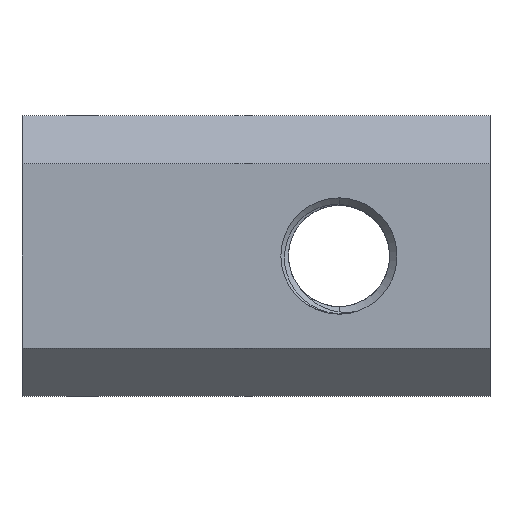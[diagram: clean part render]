
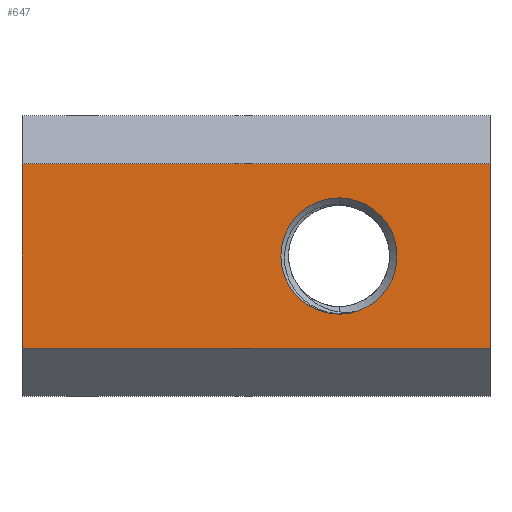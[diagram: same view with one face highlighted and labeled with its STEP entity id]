
A CAD part, front view. The second image highlights one B-rep face of the part: STEP entity #647.
In plain terms, the highlighted planar face has unit normal (0, -1, 0).
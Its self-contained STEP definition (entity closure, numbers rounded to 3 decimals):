
#28 = VERTEX_POINT ( 'NONE', #3129 ) ;
#56 = EDGE_LOOP ( 'NONE', ( #4182, #2346, #581 ) ) ;
#110 = CARTESIAN_POINT ( 'NONE',  ( 31., 0., -6.1 ) ) ;
#259 = ORIENTED_EDGE ( 'NONE', *, *, #1828, .F. ) ;
#275 = LINE ( 'NONE', #3035, #2840 ) ;
#318 = CARTESIAN_POINT ( 'NONE',  ( 31., 0., 4.9 ) ) ;
#393 = VECTOR ( 'NONE', #3315, 1000. ) ;
#436 = CARTESIAN_POINT ( 'NONE',  ( 0., 0., 4.9 ) ) ;
#581 = ORIENTED_EDGE ( 'NONE', *, *, #2316, .T. ) ;
#647 = ADVANCED_FACE ( 'NONE', ( #2257, #2011 ), #1257, .F. ) ;
#712 = DIRECTION ( 'NONE',  ( -1., 0., 0. ) ) ;
#835 = ORIENTED_EDGE ( 'NONE', *, *, #4388, .F. ) ;
#1008 = AXIS2_PLACEMENT_3D ( 'NONE', #3575, #1182, #712 ) ;
#1030 = VERTEX_POINT ( 'NONE', #110 ) ;
#1124 = CIRCLE ( 'NONE', #2845, 3.85 ) ;
#1182 = DIRECTION ( 'NONE',  ( 0., 1., 0. ) ) ;
#1253 = CARTESIAN_POINT ( 'NONE',  ( 21., 0., 3.85 ) ) ;
#1257 = PLANE ( 'NONE',  #1483 ) ;
#1404 = AXIS2_PLACEMENT_3D ( 'NONE', #4635, #4154, #3695 ) ;
#1483 = AXIS2_PLACEMENT_3D ( 'NONE', #318, #4470, #3994 ) ;
#1508 = VERTEX_POINT ( 'NONE', #3187 ) ;
#1619 = VERTEX_POINT ( 'NONE', #1253 ) ;
#1710 = CIRCLE ( 'NONE', #1008, 3.85 ) ;
#1730 = DIRECTION ( 'NONE',  ( -1., 0., 0. ) ) ;
#1828 = EDGE_CURVE ( 'NONE', #4561, #3625, #4234, .T. ) ;
#1865 = CIRCLE ( 'NONE', #1404, 3.85 ) ;
#2011 = FACE_OUTER_BOUND ( 'NONE', #2831, .T. ) ;
#2147 = EDGE_CURVE ( 'NONE', #4103, #28, #1865, .T. ) ;
#2161 = DIRECTION ( 'NONE',  ( 0., 0., -1. ) ) ;
#2197 = DIRECTION ( 'NONE',  ( 0., 1., 0. ) ) ;
#2257 = FACE_BOUND ( 'NONE', #56, .T. ) ;
#2316 = EDGE_CURVE ( 'NONE', #1619, #4103, #1710, .T. ) ;
#2321 = LINE ( 'NONE', #436, #3799 ) ;
#2339 = VECTOR ( 'NONE', #2161, 1000. ) ;
#2346 = ORIENTED_EDGE ( 'NONE', *, *, #3112, .T. ) ;
#2538 = DIRECTION ( 'NONE',  ( 1., 0., 0. ) ) ;
#2657 = CARTESIAN_POINT ( 'NONE',  ( 31., 0., 4.9 ) ) ;
#2695 = CARTESIAN_POINT ( 'NONE',  ( 21., 0., 0. ) ) ;
#2831 = EDGE_LOOP ( 'NONE', ( #4012, #835, #259, #3143 ) ) ;
#2840 = VECTOR ( 'NONE', #2538, 1000. ) ;
#2845 = AXIS2_PLACEMENT_3D ( 'NONE', #2695, #2197, #1730 ) ;
#3035 = CARTESIAN_POINT ( 'NONE',  ( -0.001, 0., -6.1 ) ) ;
#3112 = EDGE_CURVE ( 'NONE', #28, #1619, #1124, .T. ) ;
#3129 = CARTESIAN_POINT ( 'NONE',  ( 21., 0., -3.85 ) ) ;
#3143 = ORIENTED_EDGE ( 'NONE', *, *, #3568, .T. ) ;
#3153 = LINE ( 'NONE', #2657, #2339 ) ;
#3187 = CARTESIAN_POINT ( 'NONE',  ( 0., 0., -6.1 ) ) ;
#3315 = DIRECTION ( 'NONE',  ( 1., 0., 0. ) ) ;
#3568 = EDGE_CURVE ( 'NONE', #4561, #1508, #2321, .T. ) ;
#3575 = CARTESIAN_POINT ( 'NONE',  ( 21., 0., 0. ) ) ;
#3625 = VERTEX_POINT ( 'NONE', #3777 ) ;
#3695 = DIRECTION ( 'NONE',  ( -1., 0., 0. ) ) ;
#3767 = CARTESIAN_POINT ( 'NONE',  ( -0.001, 0., 6.1 ) ) ;
#3777 = CARTESIAN_POINT ( 'NONE',  ( 31., 0., 6.1 ) ) ;
#3799 = VECTOR ( 'NONE', #4589, 1000. ) ;
#3994 = DIRECTION ( 'NONE',  ( -1., 0., 0. ) ) ;
#3996 = CARTESIAN_POINT ( 'NONE',  ( 22.197, 0., -3.659 ) ) ;
#4012 = ORIENTED_EDGE ( 'NONE', *, *, #4425, .T. ) ;
#4103 = VERTEX_POINT ( 'NONE', #3996 ) ;
#4154 = DIRECTION ( 'NONE',  ( 0., 1., 0. ) ) ;
#4182 = ORIENTED_EDGE ( 'NONE', *, *, #2147, .T. ) ;
#4234 = LINE ( 'NONE', #3767, #393 ) ;
#4367 = CARTESIAN_POINT ( 'NONE',  ( 0., 0., 6.1 ) ) ;
#4388 = EDGE_CURVE ( 'NONE', #3625, #1030, #3153, .T. ) ;
#4425 = EDGE_CURVE ( 'NONE', #1508, #1030, #275, .T. ) ;
#4470 = DIRECTION ( 'NONE',  ( 0., 1., 0. ) ) ;
#4561 = VERTEX_POINT ( 'NONE', #4367 ) ;
#4589 = DIRECTION ( 'NONE',  ( 0., 0., -1. ) ) ;
#4635 = CARTESIAN_POINT ( 'NONE',  ( 21., 0., 0. ) ) ;
